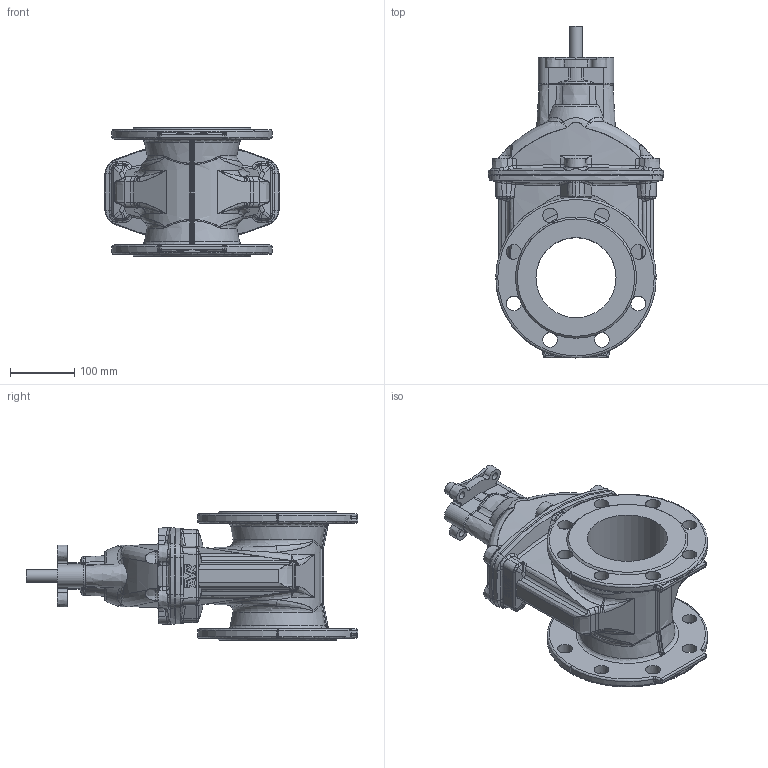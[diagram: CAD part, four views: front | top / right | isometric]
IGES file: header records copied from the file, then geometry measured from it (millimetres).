
Start section: SolidWorks IGES file using analytic representation for surfaces
Global section: file name: \\avksan2\techshare\PBM outline export from Enovia\O_06_42_DN125_X1XXX_REV02.igs; native system: SolidWorks 2022; preprocessor: SolidWorks 2022; author: pbm; date: 251218.075617; units: millimetre
Bounding box: 273.59 x 517.5 x 200 mm (x, y, z)
Surface area: 517175.5 mm2 (no closed solid volume)
Topology: 0 solids, 0 shells, 765 faces, 3951 edges, 3892 vertices
Faces by surface type: bspline 442, revolution 323
